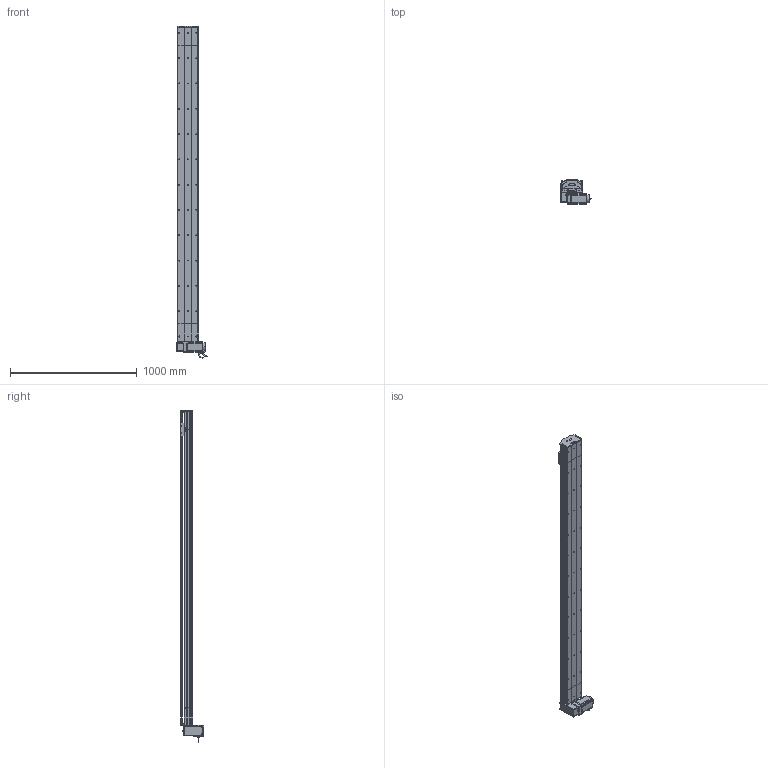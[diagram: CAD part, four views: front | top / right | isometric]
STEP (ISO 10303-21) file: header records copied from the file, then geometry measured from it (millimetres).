
FILE_DESCRIPTION (( 'STEP AP214' ), '1' );
FILE_NAME ('D17 TBN RU S2200.STEP', '2010-06-30T11:37:39', ( 'Christophe Gaillard' ), ( 'SGA' ), 'SwSTEP 2.0', 'SolidWorks 2010', '' );
FILE_SCHEMA (( 'AUTOMOTIVE_DESIGN' ));
Length unit declared in the file: millimetre
Products named in the file (40): course 2200 D17B_Default; vis M5 L8 90°_Default; vis M5 L12_Default; guide D17; vis M5 L25_Default; chariot D17 TBN; avant 90BLDC125A-640; corps 90BLDC125A-640; D17 TBN RU S2200; vis M5 L16_Default; Vis M5 L16-2_Default; codeur 90BLDC125-640; Conecteur2_Default; Chariot D17 TBN; Moteur motionking 90BLDC125A-640; vis M5 L70_Default; couroie head D17_Default; Conecteur_Default; poulie head_Default; couvercle D17B head_Default; plaque de  bout head D17B RU_Default; Arbre+rail head D17B; corpl head D17 _Default; couvercle D17B_Default; corpl tail D17B_Default; Rail D17B; Couroie+ rail D17 Course 2200 ; tete d''axe poulie D17B; plaque de  bout tail D17B_Default; Tail D17B_Default; Couroie tail D17B_Default; poulie tail_Default; corp D17B 2200_Default; couvercle D17B course L2200_Default; Head RU D17B_Default; cache arbre D17_Default; Renvoi RU_Default; Plaque racord D17_Default; cache D17_Default; vis M5 L5_Default
Assembly tree (66 placements, depth 4):
  D17 TBN RU S2200
    Tail D17B_Default
      vis M5 L12_Default  x4
      Couroie tail D17B_Default
      poulie tail_Default
      Rail D17B
      corpl tail D17B_Default
      vis M5 L8 90°_Default  x2
      couvercle D17B_Default
      tete d''axe poulie D17B
      vis M5 L25_Default  x2
      plaque de  bout tail D17B_Default
    chariot D17 TBN
      Chariot D17 TBN
      guide D17  x2
    course 2200 D17B_Default
      corp D17B 2200_Default
      Couroie+ rail D17 Course 2200 
      couvercle D17B course L2200_Default
    Head RU D17B_Default
      corpl head D17 _Default
      poulie head_Default
      vis M5 L12_Default  x8
      plaque de  bout head D17B RU_Default
      vis M5 L70_Default  x4
      cache D17_Default  x2
      Moteur motionking 90BLDC125A-640
        corps 90BLDC125A-640
        codeur 90BLDC125-640
        avant 90BLDC125A-640
        Conecteur_Default
        Conecteur2_Default
      vis M5 L5_Default  x4
      Renvoi RU_Default
      vis M5 L25_Default  x2
      couroie head D17_Default
      Vis M5 L16-2_Default  x4
      Plaque racord D17_Default
      vis M5 L16_Default  x2
      Arbre+rail head D17B
      cache arbre D17_Default
      couvercle D17B head_Default
Bounding box: 245.2 x 188.65 x 2623.95 mm (x, y, z)
Volume: 15212334 mm3; surface area: 4402553.4 mm2
Topology: 89 solids, 89 shells, 2603 faces, 6649 edges, 4286 vertices
Faces by surface type: plane 1533, cylinder 773, bspline 136, cone 80, torus 77, sphere 4
Entity records: 84395 total; most frequent: CARTESIAN_POINT 25135, ORIENTED_EDGE 10470, DIRECTION 9892, EDGE_CURVE 5235, LINE 3458, VECTOR 3458, VERTEX_POINT 3430, AXIS2_PLACEMENT_3D 3217
